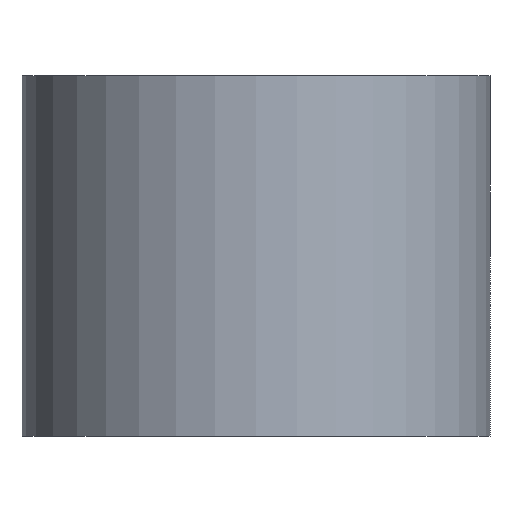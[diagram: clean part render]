
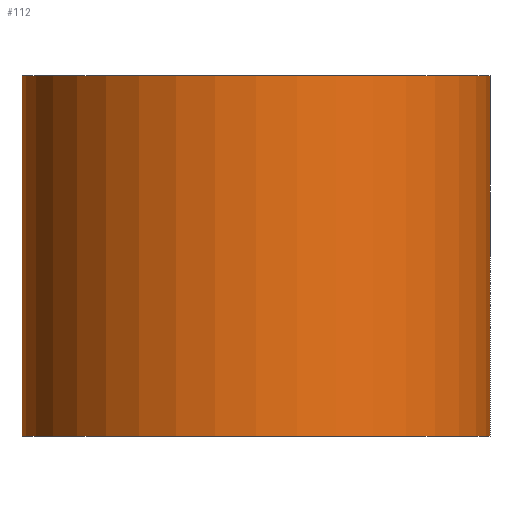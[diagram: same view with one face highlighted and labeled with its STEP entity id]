
A CAD part, front view. The second image highlights one B-rep face of the part: STEP entity #112.
In plain terms, the highlighted cylindrical face has radius 6.5 mm (diameter 13 mm), a partial arc.
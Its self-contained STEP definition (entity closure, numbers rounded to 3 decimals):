
#112=ADVANCED_FACE('',(#125),#119,.T.);
#119=CYLINDRICAL_SURFACE('',#254,6.5);
#125=FACE_OUTER_BOUND('',#135,.T.);
#135=EDGE_LOOP('',(#177,#178,#179,#180));
#149=CIRCLE('',#250,6.5);
#151=CIRCLE('',#253,6.5);
#177=ORIENTED_EDGE('',*,*,#221,.T.);
#178=ORIENTED_EDGE('',*,*,#222,.F.);
#179=ORIENTED_EDGE('',*,*,#223,.F.);
#180=ORIENTED_EDGE('',*,*,#219,.T.);
#203=VERTEX_POINT('',#344);
#204=VERTEX_POINT('',#345);
#205=VERTEX_POINT('',#349);
#206=VERTEX_POINT('',#351);
#219=EDGE_CURVE('',#203,#204,#149,.T.);
#221=EDGE_CURVE('',#204,#205,#231,.T.);
#222=EDGE_CURVE('',#206,#205,#151,.T.);
#223=EDGE_CURVE('',#203,#206,#232,.T.);
#231=LINE('',#348,#235);
#232=LINE('',#352,#236);
#235=VECTOR('',#298,1.);
#236=VECTOR('',#301,1.);
#250=AXIS2_PLACEMENT_3D('',#343,#292,#293);
#253=AXIS2_PLACEMENT_3D('',#350,#299,#300);
#254=AXIS2_PLACEMENT_3D('',#353,#302,#303);
#292=DIRECTION('',(0.,0.,1.));
#293=DIRECTION('',(0.,1.,0.));
#298=DIRECTION('',(0.,0.,1.));
#299=DIRECTION('',(0.,0.,1.));
#300=DIRECTION('',(0.,1.,0.));
#301=DIRECTION('',(0.,0.,1.));
#302=DIRECTION('',(0.,0.,1.));
#303=DIRECTION('',(0.,-1.,0.));
#343=CARTESIAN_POINT('',(0.,0.,-10.));
#344=CARTESIAN_POINT('',(-6.5,0.,-10.));
#345=CARTESIAN_POINT('',(6.5,0.,-10.));
#348=CARTESIAN_POINT('',(6.5,0.,0.));
#349=CARTESIAN_POINT('',(6.5,0.,0.));
#350=CARTESIAN_POINT('',(0.,0.,0.));
#351=CARTESIAN_POINT('',(-6.5,0.,0.));
#352=CARTESIAN_POINT('',(-6.5,0.,0.));
#353=CARTESIAN_POINT('',(0.,0.,-10.));
